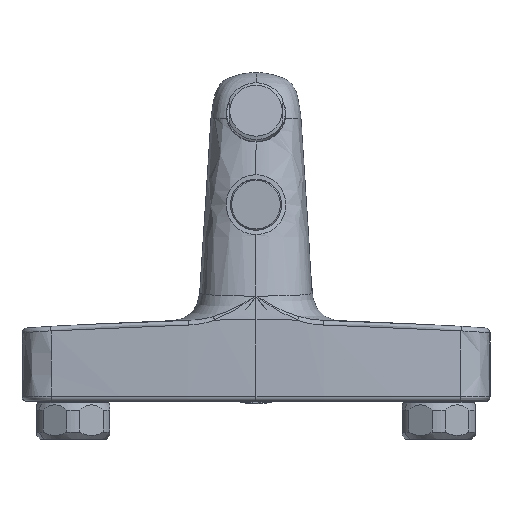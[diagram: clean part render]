
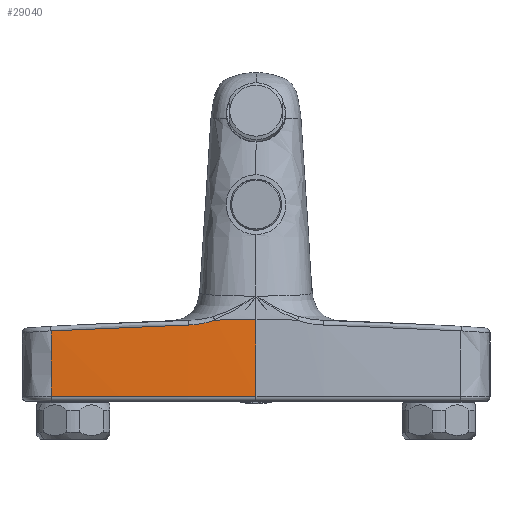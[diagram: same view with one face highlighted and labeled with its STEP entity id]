
A CAD part, front view. The second image highlights one B-rep face of the part: STEP entity #29040.
In plain terms, the highlighted conical face has half-angle 3.56 degrees and reference radius 872 mm.
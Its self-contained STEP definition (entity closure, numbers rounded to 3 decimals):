
#649 = VERTEX_POINT ( 'NONE', #15743 ) ;
#662 = VERTEX_POINT ( 'NONE', #14513 ) ;
#2355 = CARTESIAN_POINT ( 'NONE',  ( 34.436, 45.248, 111.432 ) ) ;
#2561 = CIRCLE ( 'NONE', #22033, 13893.864 ) ;
#3592 = CARTESIAN_POINT ( 'NONE',  ( 13812.827, -1222.626, 250.783 ) ) ;
#4026 = EDGE_CURVE ( 'NONE', #649, #11977, #35571, .T. ) ;
#4574 = CARTESIAN_POINT ( 'NONE',  ( 62.058, 45.005, 113.548 ) ) ;
#4695 = ORIENTED_EDGE ( 'NONE', *, *, #37727, .T. ) ;
#4831 = CIRCLE ( 'NONE', #31811, 871.868 ) ;
#5127 = CARTESIAN_POINT ( 'NONE',  ( -21.887, 46.911, 82.172 ) ) ;
#5274 = CARTESIAN_POINT ( 'NONE',  ( 44.608, 45.115, 113.161 ) ) ;
#5575 = CARTESIAN_POINT ( 'NONE',  ( -3.223, 46.897, 110.254 ) ) ;
#5681 = CARTESIAN_POINT ( 'NONE',  ( 45.554, 45.119, 113.476 ) ) ;
#6826 = DIRECTION ( 'NONE',  ( -0.996, 0.091, -0.012 ) ) ;
#6894 = DIRECTION ( 'NONE',  ( -1., 0., 0. ) ) ;
#6929 = CARTESIAN_POINT ( 'NONE',  ( 43.213, 45.115, 112.747 ) ) ;
#7065 = CARTESIAN_POINT ( 'NONE',  ( 41.628, 45.124, 112.359 ) ) ;
#7235 = DIRECTION ( 'NONE',  ( 0., 0., 1. ) ) ;
#7485 = EDGE_CURVE ( 'NONE', #662, #12827, #17395, .T. ) ;
#8248 = CARTESIAN_POINT ( 'NONE',  ( 56.556, 44.993, 113.562 ) ) ;
#10055 = B_SPLINE_CURVE_WITH_KNOTS ( 'NONE', 3,
 ( #2355, #21582, #5575, #28096 ),
 .UNSPECIFIED., .F., .F.,
 ( 4, 4 ),
 ( 0., 1. ),
 .UNSPECIFIED. ) ;
#11264 = EDGE_CURVE ( 'NONE', #14213, #662, #4831, .T. ) ;
#11615 = CARTESIAN_POINT ( 'NONE',  ( 62.058, 45.005, 113.548 ) ) ;
#11977 = VERTEX_POINT ( 'NONE', #35342 ) ;
#12827 = VERTEX_POINT ( 'NONE', #4574 ) ;
#14213 = VERTEX_POINT ( 'NONE', #5127 ) ;
#14513 = CARTESIAN_POINT ( 'NONE',  ( 62.058, 43.052, 82.172 ) ) ;
#15005 = CARTESIAN_POINT ( 'NONE',  ( 62.058, 44.028, 97.86 ) ) ;
#15168 = DIRECTION ( 'NONE',  ( 1., 0., 0. ) ) ;
#15743 = CARTESIAN_POINT ( 'NONE',  ( 45.554, 45.119, 113.476 ) ) ;
#16353 = FACE_OUTER_BOUND ( 'NONE', #17753, .T. ) ;
#17395 = LINE ( 'NONE', #15005, #17919 ) ;
#17753 = EDGE_LOOP ( 'NONE', ( #27972, #4695, #20918, #30399, #27814, #31423 ) ) ;
#17919 = VECTOR ( 'NONE', #39354, 1000. ) ;
#18064 = CARTESIAN_POINT ( 'NONE',  ( 45.554, 45.119, 113.476 ) ) ;
#20918 = ORIENTED_EDGE ( 'NONE', *, *, #4026, .T. ) ;
#21582 = CARTESIAN_POINT ( 'NONE',  ( 15.611, 45.78, 111.058 ) ) ;
#22033 = AXIS2_PLACEMENT_3D ( 'NONE', #3592, #26092, #6826 ) ;
#22441 = DIRECTION ( 'NONE',  ( 0., 0., -1. ) ) ;
#24236 = VERTEX_POINT ( 'NONE', #26604 ) ;
#26092 = DIRECTION ( 'NONE',  ( 0.092, 0.994, -0.062 ) ) ;
#26604 = CARTESIAN_POINT ( 'NONE',  ( -22.033, 48.603, 109.021 ) ) ;
#26693 = EDGE_CURVE ( 'NONE', #14213, #24236, #2561, .T. ) ;
#26894 = CARTESIAN_POINT ( 'NONE',  ( 34.436, 45.248, 111.432 ) ) ;
#26933 = AXIS2_PLACEMENT_3D ( 'NONE', #37797, #22441, #15168 ) ;
#27039 = CARTESIAN_POINT ( 'NONE',  ( 36.274, 45.196, 111.468 ) ) ;
#27504 = CARTESIAN_POINT ( 'NONE',  ( 38.152, 45.159, 111.669 ) ) ;
#27533 = CONICAL_SURFACE ( 'NONE', #26933, 872., 0.062 ) ;
#27783 = CARTESIAN_POINT ( 'NONE',  ( 40.086, 45.138, 112.037 ) ) ;
#27814 = ORIENTED_EDGE ( 'NONE', *, *, #26693, .F. ) ;
#27972 = ORIENTED_EDGE ( 'NONE', *, *, #7485, .T. ) ;
#28096 = CARTESIAN_POINT ( 'NONE',  ( -22.033, 48.603, 109.021 ) ) ;
#28631 = CARTESIAN_POINT ( 'NONE',  ( 40.099, 45.138, 112.039 ) ) ;
#29040 = ADVANCED_FACE ( 'NONE', ( #16353 ), #27533, .T. ) ;
#29042 = CARTESIAN_POINT ( 'NONE',  ( 40.126, 45.137, 112.044 ) ) ;
#29469 = CARTESIAN_POINT ( 'NONE',  ( 40.168, 45.137, 112.052 ) ) ;
#29721 = CARTESIAN_POINT ( 'NONE',  ( 60.077, 914.918, 82.172 ) ) ;
#29901 = CARTESIAN_POINT ( 'NONE',  ( 40.264, 45.136, 112.071 ) ) ;
#30175 = CARTESIAN_POINT ( 'NONE',  ( 40.458, 45.134, 112.109 ) ) ;
#30218 = CARTESIAN_POINT ( 'NONE',  ( 40.846, 45.13, 112.188 ) ) ;
#30399 = ORIENTED_EDGE ( 'NONE', *, *, #41266, .T. ) ;
#31423 = ORIENTED_EDGE ( 'NONE', *, *, #11264, .T. ) ;
#31811 = AXIS2_PLACEMENT_3D ( 'NONE', #29721, #7235, #6894 ) ;
#32731 = B_SPLINE_CURVE_WITH_KNOTS ( 'NONE', 3,
 ( #11615, #8248, #37458, #18064 ),
 .UNSPECIFIED., .F., .F.,
 ( 4, 4 ),
 ( 0., 1. ),
 .UNSPECIFIED. ) ;
#35342 = CARTESIAN_POINT ( 'NONE',  ( 34.436, 45.248, 111.432 ) ) ;
#35571 = B_SPLINE_CURVE_WITH_KNOTS ( 'NONE', 3,
 ( #5681, #5274, #6929, #7065, #30218, #30175, #29901, #29469, #29042, #28631, #27783, #27504, #27039, #26894 ),
 .UNSPECIFIED., .F., .F.,
 ( 4, 1, 1, 1, 1, 1, 1, 2, 2, 4 ),
 ( 0., 0.25, 0.375, 0.437, 0.469, 0.484, 0.492, 0.496, 0.5, 1. ),
 .UNSPECIFIED. ) ;
#37458 = CARTESIAN_POINT ( 'NONE',  ( 51.054, 45.031, 113.538 ) ) ;
#37727 = EDGE_CURVE ( 'NONE', #12827, #649, #32731, .T. ) ;
#37797 = CARTESIAN_POINT ( 'NONE',  ( 60.077, 914.918, 80.048 ) ) ;
#39354 = DIRECTION ( 'NONE',  ( 0., 0.062, 0.998 ) ) ;
#41266 = EDGE_CURVE ( 'NONE', #11977, #24236, #10055, .T. ) ;
